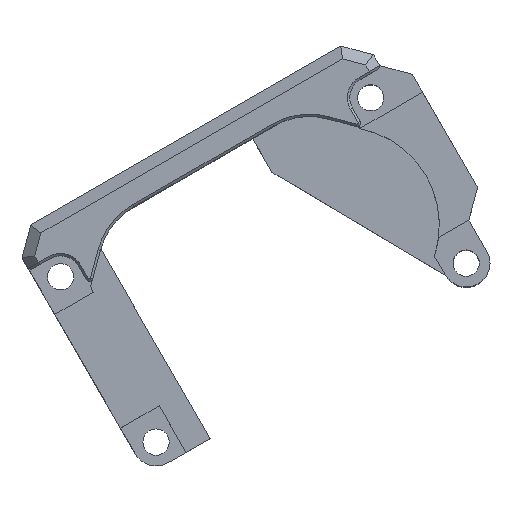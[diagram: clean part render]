
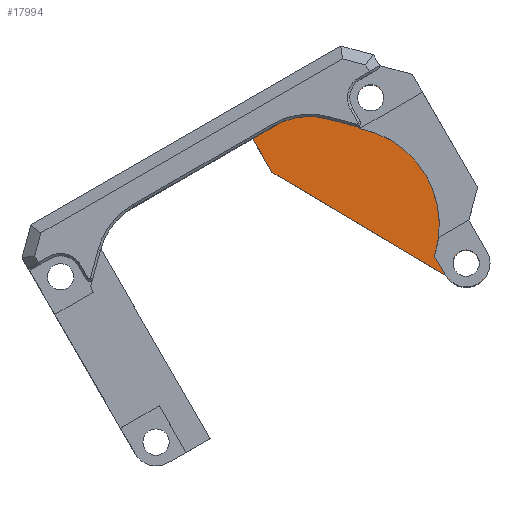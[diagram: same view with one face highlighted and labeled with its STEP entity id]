
A CAD part, top view. The second image highlights one B-rep face of the part: STEP entity #17994.
In plain terms, the highlighted planar face has unit normal (0, 0, 1).
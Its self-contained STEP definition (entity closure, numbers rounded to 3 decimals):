
#289 = EDGE_CURVE ( 'NONE', #15976, #3055, #9696, .T. ) ;
#702 = EDGE_LOOP ( 'NONE', ( #2177, #7708, #966, #1822, #19571 ) ) ;
#966 = ORIENTED_EDGE ( 'NONE', *, *, #289, .T. ) ;
#1073 = AXIS2_PLACEMENT_3D ( 'NONE', #16520, #1616, #4620 ) ;
#1107 = PLANE ( 'NONE',  #6998 ) ;
#1124 = EDGE_LOOP ( 'NONE', ( #8336, #5845 ) ) ;
#1417 = DIRECTION ( 'NONE',  ( 0.488, -0.873, 0. ) ) ;
#1533 = DIRECTION ( 'NONE',  ( 0., 1., 0. ) ) ;
#1616 = DIRECTION ( 'NONE',  ( 0., 0., 1. ) ) ;
#1822 = ORIENTED_EDGE ( 'NONE', *, *, #2473, .T. ) ;
#2177 = ORIENTED_EDGE ( 'NONE', *, *, #13781, .T. ) ;
#2473 = EDGE_CURVE ( 'NONE', #3055, #4705, #16536, .T. ) ;
#2571 = CARTESIAN_POINT ( 'NONE',  ( 15., -18., -11.5 ) ) ;
#2604 = CARTESIAN_POINT ( 'NONE',  ( 17., 0., -11.5 ) ) ;
#2698 = CIRCLE ( 'NONE', #17389, 1.1 ) ;
#3055 = VERTEX_POINT ( 'NONE', #19020 ) ;
#3484 = CIRCLE ( 'NONE', #15619, 1.1 ) ;
#4061 = DIRECTION ( 'NONE',  ( 1., 0., 0. ) ) ;
#4392 = LINE ( 'NONE', #7504, #17689 ) ;
#4433 = EDGE_CURVE ( 'NONE', #11528, #18935, #18124, .T. ) ;
#4513 = FACE_BOUND ( 'NONE', #6155, .T. ) ;
#4620 = DIRECTION ( 'NONE',  ( 1., 0., 0. ) ) ;
#4705 = VERTEX_POINT ( 'NONE', #2604 ) ;
#4709 = AXIS2_PLACEMENT_3D ( 'NONE', #2571, #10170, #4061 ) ;
#4814 = EDGE_CURVE ( 'NONE', #4705, #8823, #4392, .T. ) ;
#4825 = DIRECTION ( 'NONE',  ( 0., 0., 1. ) ) ;
#5086 = CARTESIAN_POINT ( 'NONE',  ( 16.1, -18., -11.5 ) ) ;
#5341 = VECTOR ( 'NONE', #7419, 1000. ) ;
#5382 = EDGE_CURVE ( 'NONE', #14758, #13119, #2698, .T. ) ;
#5627 = CARTESIAN_POINT ( 'NONE',  ( 15., -2., -11.5 ) ) ;
#5845 = ORIENTED_EDGE ( 'NONE', *, *, #18312, .F. ) ;
#6012 = FACE_BOUND ( 'NONE', #1124, .T. ) ;
#6155 = EDGE_LOOP ( 'NONE', ( #10737, #9527 ) ) ;
#6572 = EDGE_CURVE ( 'NONE', #6973, #15976, #18230, .T. ) ;
#6973 = VERTEX_POINT ( 'NONE', #15084 ) ;
#6998 = AXIS2_PLACEMENT_3D ( 'NONE', #10405, #18210, #16500 ) ;
#7419 = DIRECTION ( 'NONE',  ( 0., -1., 0. ) ) ;
#7504 = CARTESIAN_POINT ( 'NONE',  ( 17., 0., -11.5 ) ) ;
#7708 = ORIENTED_EDGE ( 'NONE', *, *, #6572, .T. ) ;
#7908 = AXIS2_PLACEMENT_3D ( 'NONE', #8110, #4825, #17310 ) ;
#8110 = CARTESIAN_POINT ( 'NONE',  ( 15., -18., -11.5 ) ) ;
#8336 = ORIENTED_EDGE ( 'NONE', *, *, #5382, .F. ) ;
#8823 = VERTEX_POINT ( 'NONE', #9844 ) ;
#9002 = CARTESIAN_POINT ( 'NONE',  ( 4.738, 0., -11.5 ) ) ;
#9369 = CARTESIAN_POINT ( 'NONE',  ( 13., -18., -11.5 ) ) ;
#9527 = ORIENTED_EDGE ( 'NONE', *, *, #11659, .F. ) ;
#9696 = CIRCLE ( 'NONE', #1073, 2. ) ;
#9844 = CARTESIAN_POINT ( 'NONE',  ( 4.738, 0., -11.5 ) ) ;
#10170 = DIRECTION ( 'NONE',  ( 0., 0., 1. ) ) ;
#10405 = CARTESIAN_POINT ( 'NONE',  ( 15., -18., -11.5 ) ) ;
#10737 = ORIENTED_EDGE ( 'NONE', *, *, #4433, .F. ) ;
#11353 = DIRECTION ( 'NONE',  ( 1., 0., 0. ) ) ;
#11429 = LINE ( 'NONE', #9002, #5341 ) ;
#11528 = VERTEX_POINT ( 'NONE', #5086 ) ;
#11659 = EDGE_CURVE ( 'NONE', #18935, #11528, #13331, .T. ) ;
#11837 = DIRECTION ( 'NONE',  ( 0., 0., 1. ) ) ;
#11914 = FACE_OUTER_BOUND ( 'NONE', #702, .T. ) ;
#12182 = DIRECTION ( 'NONE',  ( 1., 0., 0. ) ) ;
#12331 = CARTESIAN_POINT ( 'NONE',  ( 17., -18., -11.5 ) ) ;
#12556 = CARTESIAN_POINT ( 'NONE',  ( 13.9, -2., -11.5 ) ) ;
#13119 = VERTEX_POINT ( 'NONE', #12556 ) ;
#13331 = CIRCLE ( 'NONE', #4709, 1.1 ) ;
#13595 = DIRECTION ( 'NONE',  ( -1., 0., 0. ) ) ;
#13781 = EDGE_CURVE ( 'NONE', #8823, #6973, #11429, .T. ) ;
#13916 = CARTESIAN_POINT ( 'NONE',  ( 13.9, -18., -11.5 ) ) ;
#14758 = VERTEX_POINT ( 'NONE', #15654 ) ;
#15084 = CARTESIAN_POINT ( 'NONE',  ( 4.738, -3.241, -11.5 ) ) ;
#15619 = AXIS2_PLACEMENT_3D ( 'NONE', #18267, #18167, #12182 ) ;
#15654 = CARTESIAN_POINT ( 'NONE',  ( 16.1, -2., -11.5 ) ) ;
#15976 = VERTEX_POINT ( 'NONE', #9369 ) ;
#16500 = DIRECTION ( 'NONE',  ( 1., 0., 0. ) ) ;
#16520 = CARTESIAN_POINT ( 'NONE',  ( 15., -18., -11.5 ) ) ;
#16536 = LINE ( 'NONE', #12331, #19652 ) ;
#17310 = DIRECTION ( 'NONE',  ( 1., 0., 0. ) ) ;
#17389 = AXIS2_PLACEMENT_3D ( 'NONE', #5627, #11837, #11353 ) ;
#17689 = VECTOR ( 'NONE', #13595, 1000. ) ;
#17830 = VECTOR ( 'NONE', #1417, 1000. ) ;
#17994 = ADVANCED_FACE ( 'NONE', ( #6012, #11914, #4513 ), #1107, .T. ) ;
#18025 = CARTESIAN_POINT ( 'NONE',  ( 4.738, -3.241, -11.5 ) ) ;
#18124 = CIRCLE ( 'NONE', #7908, 1.1 ) ;
#18167 = DIRECTION ( 'NONE',  ( 0., 0., 1. ) ) ;
#18210 = DIRECTION ( 'NONE',  ( 0., 0., 1. ) ) ;
#18230 = LINE ( 'NONE', #18025, #17830 ) ;
#18267 = CARTESIAN_POINT ( 'NONE',  ( 15., -2., -11.5 ) ) ;
#18312 = EDGE_CURVE ( 'NONE', #13119, #14758, #3484, .T. ) ;
#18935 = VERTEX_POINT ( 'NONE', #13916 ) ;
#19020 = CARTESIAN_POINT ( 'NONE',  ( 17., -18., -11.5 ) ) ;
#19571 = ORIENTED_EDGE ( 'NONE', *, *, #4814, .T. ) ;
#19652 = VECTOR ( 'NONE', #1533, 1000. ) ;
